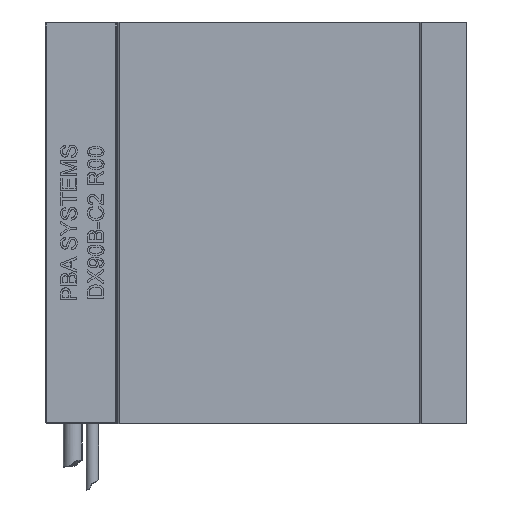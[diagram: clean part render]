
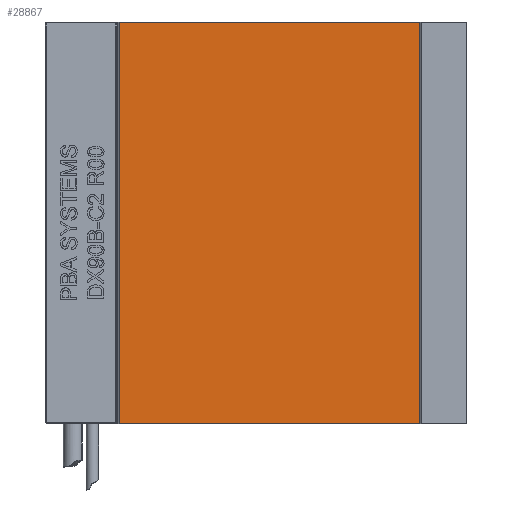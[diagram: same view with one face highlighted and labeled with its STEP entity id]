
A CAD part, left-side view. The second image highlights one B-rep face of the part: STEP entity #28867.
In plain terms, the highlighted planar face has unit normal (-1, 0, 0).
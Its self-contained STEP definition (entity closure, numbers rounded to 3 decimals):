
#851 = EDGE_CURVE ( 'NONE', #25502, #38595, #21985, .T. ) ;
#1879 = DIRECTION ( 'NONE',  ( -1., 0., 0. ) ) ;
#3855 = CARTESIAN_POINT ( 'NONE',  ( -5.8, 104.7, 121. ) ) ;
#4700 = DIRECTION ( 'NONE',  ( 0., 0., -1. ) ) ;
#5491 = FACE_OUTER_BOUND ( 'NONE', #29265, .T. ) ;
#6307 = VECTOR ( 'NONE', #30875, 1000. ) ;
#6423 = AXIS2_PLACEMENT_3D ( 'NONE', #37604, #1879, #22813 ) ;
#6840 = CARTESIAN_POINT ( 'NONE',  ( -5.8, 14.2, 121. ) ) ;
#7718 = CARTESIAN_POINT ( 'NONE',  ( -5.8, 14.2, 121. ) ) ;
#8719 = CARTESIAN_POINT ( 'NONE',  ( -5.8, 104.7, 121. ) ) ;
#9505 = CARTESIAN_POINT ( 'NONE',  ( -5.8, 104.7, 0. ) ) ;
#9983 = VECTOR ( 'NONE', #4700, 1000. ) ;
#10764 = ORIENTED_EDGE ( 'NONE', *, *, #23739, .T. ) ;
#11305 = ORIENTED_EDGE ( 'NONE', *, *, #21648, .F. ) ;
#11614 = ORIENTED_EDGE ( 'NONE', *, *, #851, .F. ) ;
#14089 = ORIENTED_EDGE ( 'NONE', *, *, #18922, .T. ) ;
#17360 = DIRECTION ( 'NONE',  ( 0., 1., 0. ) ) ;
#18922 = EDGE_CURVE ( 'NONE', #22198, #38595, #21275, .T. ) ;
#20200 = VECTOR ( 'NONE', #17360, 1000. ) ;
#21275 = LINE ( 'NONE', #3855, #6307 ) ;
#21648 = EDGE_CURVE ( 'NONE', #24456, #25502, #33733, .T. ) ;
#21985 = LINE ( 'NONE', #26278, #29828 ) ;
#22198 = VERTEX_POINT ( 'NONE', #8719 ) ;
#22260 = DIRECTION ( 'NONE',  ( 0., 1., 0. ) ) ;
#22813 = DIRECTION ( 'NONE',  ( 0., 0., 1. ) ) ;
#23739 = EDGE_CURVE ( 'NONE', #24456, #22198, #34104, .T. ) ;
#24456 = VERTEX_POINT ( 'NONE', #6840 ) ;
#25502 = VERTEX_POINT ( 'NONE', #30677 ) ;
#26278 = CARTESIAN_POINT ( 'NONE',  ( -5.8, 14.2, 0. ) ) ;
#28867 = ADVANCED_FACE ( 'NONE', ( #5491 ), #37464, .T. ) ;
#29265 = EDGE_LOOP ( 'NONE', ( #11614, #11305, #10764, #14089 ) ) ;
#29828 = VECTOR ( 'NONE', #22260, 1000. ) ;
#30677 = CARTESIAN_POINT ( 'NONE',  ( -5.8, 14.2, 0. ) ) ;
#30875 = DIRECTION ( 'NONE',  ( 0., 0., -1. ) ) ;
#33733 = LINE ( 'NONE', #7718, #9983 ) ;
#34104 = LINE ( 'NONE', #35161, #20200 ) ;
#35161 = CARTESIAN_POINT ( 'NONE',  ( -5.8, 14.2, 121. ) ) ;
#37464 = PLANE ( 'NONE',  #6423 ) ;
#37604 = CARTESIAN_POINT ( 'NONE',  ( -5.8, 14.2, 121. ) ) ;
#38595 = VERTEX_POINT ( 'NONE', #9505 ) ;
